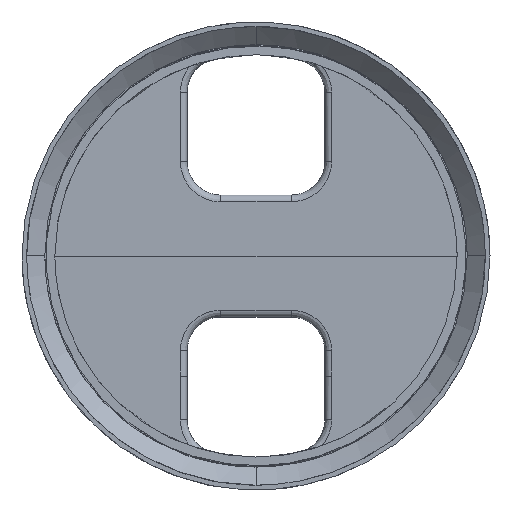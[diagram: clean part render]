
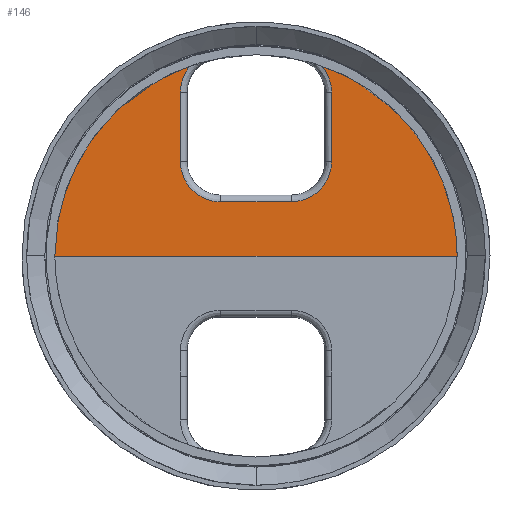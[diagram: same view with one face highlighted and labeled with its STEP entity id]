
A CAD part, top view. The second image highlights one B-rep face of the part: STEP entity #146.
In plain terms, the highlighted planar face has unit normal (0, 0, 1).
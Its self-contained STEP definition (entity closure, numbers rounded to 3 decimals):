
#146=ADVANCED_FACE('',(#370),#3692,.T.);
#370=FACE_OUTER_BOUND('',#603,.T.);
#603=EDGE_LOOP('',(#1319,#1320,#1321,#1322,#1323,#1324,#1325,#1326,#1327,
#1328));
#1319=ORIENTED_EDGE('',*,*,#2273,.T.);
#1320=ORIENTED_EDGE('',*,*,#2271,.F.);
#1321=ORIENTED_EDGE('',*,*,#2270,.T.);
#1322=ORIENTED_EDGE('',*,*,#2151,.F.);
#1323=ORIENTED_EDGE('',*,*,#2269,.F.);
#1324=ORIENTED_EDGE('',*,*,#2268,.T.);
#1325=ORIENTED_EDGE('',*,*,#2147,.F.);
#1326=ORIENTED_EDGE('',*,*,#2146,.F.);
#1327=ORIENTED_EDGE('',*,*,#2131,.T.);
#1328=ORIENTED_EDGE('',*,*,#2272,.T.);
#2131=EDGE_CURVE('',#3340,#3341,#3088,.T.);
#2146=EDGE_CURVE('',#3340,#3371,#3103,.T.);
#2147=EDGE_CURVE('',#3371,#3372,#3104,.T.);
#2151=EDGE_CURVE('',#3365,#3335,#3108,.T.);
#2268=EDGE_CURVE('',#3364,#3372,#3174,.T.);
#2269=EDGE_CURVE('',#3364,#3365,#3175,.T.);
#2270=EDGE_CURVE('',#3336,#3335,#3176,.T.);
#2271=EDGE_CURVE('',#3336,#3363,#3177,.T.);
#2272=EDGE_CURVE('',#3341,#3433,#3178,.T.);
#2273=EDGE_CURVE('',#3433,#3363,#2726,.T.);
#2726=B_SPLINE_CURVE_WITH_KNOTS('',1,(#7369,#7370),.UNSPECIFIED.,.F.,.F.,
(2,2),(-60.,0.),.UNSPECIFIED.);
#3088=(
BOUNDED_CURVE()
B_SPLINE_CURVE(3,(#6828,#6829,#6830,#6831,#6832,#6833,#6834,#6835,#6836,
#6837),.UNSPECIFIED.,.F.,.F.)
B_SPLINE_CURVE_WITH_KNOTS((4,3,3,4),(-6.792,-5.144,
-3.396,-3.245),.UNSPECIFIED.)
CURVE()
GEOMETRIC_REPRESENTATION_ITEM()
RATIONAL_B_SPLINE_CURVE((1.,1.,1.,1.,1.,1.,1.,1.,1.,1.))
REPRESENTATION_ITEM('')
);
#3103=(
BOUNDED_CURVE()
B_SPLINE_CURVE(1,(#6926,#6927),.UNSPECIFIED.,.F.,.F.)
B_SPLINE_CURVE_WITH_KNOTS((2,2),(0.,10.344),
 .UNSPECIFIED.)
CURVE()
GEOMETRIC_REPRESENTATION_ITEM()
RATIONAL_B_SPLINE_CURVE((1.,1.))
REPRESENTATION_ITEM('')
);
#3104=(
BOUNDED_CURVE()
B_SPLINE_CURVE(2,(#6928,#6929,#6930),.UNSPECIFIED.,.F.,.F.)
B_SPLINE_CURVE_WITH_KNOTS((3,3),(0.,9.425),
 .UNSPECIFIED.)
CURVE()
GEOMETRIC_REPRESENTATION_ITEM()
RATIONAL_B_SPLINE_CURVE((1.,0.707,1.))
REPRESENTATION_ITEM('')
);
#3108=(
BOUNDED_CURVE()
B_SPLINE_CURVE(1,(#6937,#6938),.UNSPECIFIED.,.F.,.F.)
B_SPLINE_CURVE_WITH_KNOTS((2,2),(0.,10.344),
 .UNSPECIFIED.)
CURVE()
GEOMETRIC_REPRESENTATION_ITEM()
RATIONAL_B_SPLINE_CURVE((1.,1.))
REPRESENTATION_ITEM('')
);
#3174=(
BOUNDED_CURVE()
B_SPLINE_CURVE(1,(#7340,#7341),.UNSPECIFIED.,.F.,.F.)
B_SPLINE_CURVE_WITH_KNOTS((2,2),(0.,10.544),
 .UNSPECIFIED.)
CURVE()
GEOMETRIC_REPRESENTATION_ITEM()
RATIONAL_B_SPLINE_CURVE((1.,1.))
REPRESENTATION_ITEM('')
);
#3175=(
BOUNDED_CURVE()
B_SPLINE_CURVE(2,(#7342,#7343,#7344),.UNSPECIFIED.,.F.,.F.)
B_SPLINE_CURVE_WITH_KNOTS((3,3),(0.,9.425),
 .UNSPECIFIED.)
CURVE()
GEOMETRIC_REPRESENTATION_ITEM()
RATIONAL_B_SPLINE_CURVE((1.,0.707,1.))
REPRESENTATION_ITEM('')
);
#3176=(
BOUNDED_CURVE()
B_SPLINE_CURVE(3,(#7345,#7346,#7347,#7348,#7349,#7350,#7351,#7352,#7353,
#7354),.UNSPECIFIED.,.F.,.F.)
B_SPLINE_CURVE_WITH_KNOTS((4,3,3,4),(3.245,3.396,
5.144,6.792),.UNSPECIFIED.)
CURVE()
GEOMETRIC_REPRESENTATION_ITEM()
RATIONAL_B_SPLINE_CURVE((1.,1.,1.,1.,1.,1.,1.,1.,1.,1.))
REPRESENTATION_ITEM('')
);
#3177=(
BOUNDED_CURVE()
B_SPLINE_CURVE(2,(#7355,#7356,#7357,#7358,#7359,#7360,#7361),
 .UNSPECIFIED.,.F.,.F.)
B_SPLINE_CURVE_WITH_KNOTS((3,2,2,3),(-36.666,-36.666,
-36.161,0.),.UNSPECIFIED.)
CURVE()
GEOMETRIC_REPRESENTATION_ITEM()
RATIONAL_B_SPLINE_CURVE((1.,0.999,0.997,0.999,
1.,0.819,1.))
REPRESENTATION_ITEM('')
);
#3178=(
BOUNDED_CURVE()
B_SPLINE_CURVE(2,(#7362,#7363,#7364,#7365,#7366,#7367,#7368),
 .UNSPECIFIED.,.F.,.F.)
B_SPLINE_CURVE_WITH_KNOTS((3,2,2,3),(57.581,57.581,
58.087,94.248),.UNSPECIFIED.)
CURVE()
GEOMETRIC_REPRESENTATION_ITEM()
RATIONAL_B_SPLINE_CURVE((1.,0.999,0.997,0.999,
1.,0.819,1.))
REPRESENTATION_ITEM('')
);
#3335=VERTEX_POINT('',#6434);
#3336=VERTEX_POINT('',#6435);
#3340=VERTEX_POINT('',#6439);
#3341=VERTEX_POINT('',#6440);
#3363=VERTEX_POINT('',#6462);
#3364=VERTEX_POINT('',#6463);
#3365=VERTEX_POINT('',#6464);
#3371=VERTEX_POINT('',#6470);
#3372=VERTEX_POINT('',#6471);
#3433=VERTEX_POINT('',#6532);
#3692=PLANE('',#4048);
#4048=AXIS2_PLACEMENT_3D('',#5984,#4235,$);
#4235=DIRECTION('',(0.,0.,1.));
#5984=CARTESIAN_POINT('',(-30.,30.,5.04));
#6434=CARTESIAN_POINT('',(11.272,24.438,5.04));
#6435=CARTESIAN_POINT('',(9.825,28.346,5.04));
#6439=CARTESIAN_POINT('',(-11.272,24.438,5.04));
#6440=CARTESIAN_POINT('',(-9.825,28.346,5.04));
#6462=CARTESIAN_POINT('',(30.,0.,5.04));
#6463=CARTESIAN_POINT('',(5.272,8.094,5.04));
#6464=CARTESIAN_POINT('',(11.272,14.094,5.04));
#6470=CARTESIAN_POINT('',(-11.272,14.094,5.04));
#6471=CARTESIAN_POINT('',(-5.272,8.094,5.04));
#6532=CARTESIAN_POINT('',(-30.,0.,5.04));
#6828=CARTESIAN_POINT('',(-11.272,24.438,5.04));
#6829=CARTESIAN_POINT('',(-11.272,25.097,5.04));
#6830=CARTESIAN_POINT('',(-11.163,25.756,5.04));
#6831=CARTESIAN_POINT('',(-10.949,26.379,5.04));
#6832=CARTESIAN_POINT('',(-10.723,27.041,5.04));
#6833=CARTESIAN_POINT('',(-10.38,27.663,5.04));
#6834=CARTESIAN_POINT('',(-9.941,28.207,5.04));
#6835=CARTESIAN_POINT('',(-9.903,28.254,5.04));
#6836=CARTESIAN_POINT('',(-9.864,28.3,5.04));
#6837=CARTESIAN_POINT('',(-9.825,28.346,5.04));
#6926=CARTESIAN_POINT('',(-11.272,24.438,5.04));
#6927=CARTESIAN_POINT('',(-11.272,14.094,5.04));
#6928=CARTESIAN_POINT('',(-11.272,14.094,5.04));
#6929=CARTESIAN_POINT('',(-11.272,8.094,5.04));
#6930=CARTESIAN_POINT('',(-5.272,8.094,5.04));
#6937=CARTESIAN_POINT('',(11.272,14.094,5.04));
#6938=CARTESIAN_POINT('',(11.272,24.438,5.04));
#7340=CARTESIAN_POINT('',(5.272,8.094,5.04));
#7341=CARTESIAN_POINT('',(-5.272,8.094,5.04));
#7342=CARTESIAN_POINT('',(5.272,8.094,5.04));
#7343=CARTESIAN_POINT('',(11.272,8.094,5.04));
#7344=CARTESIAN_POINT('',(11.272,14.094,5.04));
#7345=CARTESIAN_POINT('',(9.825,28.346,5.04));
#7346=CARTESIAN_POINT('',(9.864,28.3,5.04));
#7347=CARTESIAN_POINT('',(9.903,28.254,5.04));
#7348=CARTESIAN_POINT('',(9.941,28.207,5.04));
#7349=CARTESIAN_POINT('',(10.38,27.663,5.04));
#7350=CARTESIAN_POINT('',(10.723,27.041,5.04));
#7351=CARTESIAN_POINT('',(10.949,26.379,5.04));
#7352=CARTESIAN_POINT('',(11.163,25.756,5.04));
#7353=CARTESIAN_POINT('',(11.272,25.097,5.04));
#7354=CARTESIAN_POINT('',(11.272,24.438,5.04));
#7355=CARTESIAN_POINT('',(9.825,28.346,5.04));
#7356=CARTESIAN_POINT('',(9.825,28.346,5.04));
#7357=CARTESIAN_POINT('',(9.825,28.346,5.04));
#7358=CARTESIAN_POINT('',(10.049,28.268,5.04));
#7359=CARTESIAN_POINT('',(10.272,28.187,5.04));
#7360=CARTESIAN_POINT('',(30.,20.997,5.04));
#7361=CARTESIAN_POINT('',(30.,0.,5.04));
#7362=CARTESIAN_POINT('',(-9.825,28.346,5.04));
#7363=CARTESIAN_POINT('',(-9.825,28.346,5.04));
#7364=CARTESIAN_POINT('',(-9.825,28.346,5.04));
#7365=CARTESIAN_POINT('',(-10.049,28.268,5.04));
#7366=CARTESIAN_POINT('',(-10.272,28.187,5.04));
#7367=CARTESIAN_POINT('',(-30.,20.997,5.04));
#7368=CARTESIAN_POINT('',(-30.,0.,5.04));
#7369=CARTESIAN_POINT('',(-30.,0.,5.04));
#7370=CARTESIAN_POINT('',(30.,0.,5.04));
